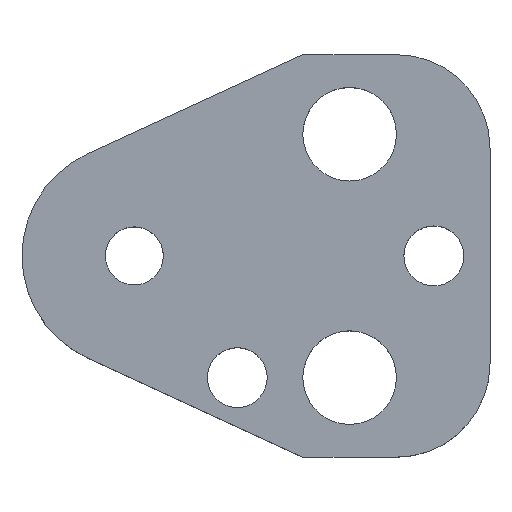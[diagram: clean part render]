
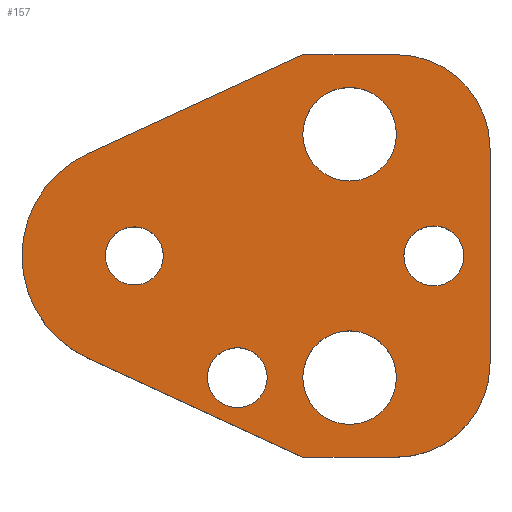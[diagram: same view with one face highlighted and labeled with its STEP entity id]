
A CAD part, top view. The second image highlights one B-rep face of the part: STEP entity #157.
In plain terms, the highlighted planar face has unit normal (0, 0, 1).
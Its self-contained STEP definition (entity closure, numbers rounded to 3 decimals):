
#103=FACE_BOUND('',#207,.T.);
#104=FACE_BOUND('',#208,.T.);
#105=FACE_BOUND('',#209,.T.);
#106=FACE_BOUND('',#210,.T.);
#107=FACE_BOUND('',#211,.T.);
#108=FACE_BOUND('',#212,.T.);
#122=CIRCLE('',#480,10.);
#124=CIRCLE('',#484,10.);
#127=CIRCLE('',#490,12.);
#138=CIRCLE('',#503,3.2);
#139=CIRCLE('',#504,3.2);
#140=CIRCLE('',#505,5.);
#141=CIRCLE('',#506,5.);
#142=CIRCLE('',#507,5.);
#143=CIRCLE('',#508,5.);
#144=CIRCLE('',#509,3.2);
#145=CIRCLE('',#510,3.2);
#146=CIRCLE('',#511,3.1);
#147=CIRCLE('',#512,3.1);
#157=ADVANCED_FACE('',(#103,#104,#105,#106,#107,#108),#174,.T.);
#174=PLANE('',#513);
#207=EDGE_LOOP('',(#273,#274,#275,#276,#277,#278,#279,#280));
#208=EDGE_LOOP('',(#281,#282));
#209=EDGE_LOOP('',(#283,#284));
#210=EDGE_LOOP('',(#285,#286));
#211=EDGE_LOOP('',(#287,#288));
#212=EDGE_LOOP('',(#289,#290));
#273=ORIENTED_EDGE('',*,*,#368,.T.);
#274=ORIENTED_EDGE('',*,*,#372,.T.);
#275=ORIENTED_EDGE('',*,*,#375,.T.);
#276=ORIENTED_EDGE('',*,*,#378,.T.);
#277=ORIENTED_EDGE('',*,*,#381,.T.);
#278=ORIENTED_EDGE('',*,*,#384,.T.);
#279=ORIENTED_EDGE('',*,*,#387,.T.);
#280=ORIENTED_EDGE('',*,*,#390,.T.);
#281=ORIENTED_EDGE('',*,*,#401,.T.);
#282=ORIENTED_EDGE('',*,*,#402,.T.);
#283=ORIENTED_EDGE('',*,*,#403,.T.);
#284=ORIENTED_EDGE('',*,*,#404,.T.);
#285=ORIENTED_EDGE('',*,*,#405,.T.);
#286=ORIENTED_EDGE('',*,*,#406,.T.);
#287=ORIENTED_EDGE('',*,*,#407,.T.);
#288=ORIENTED_EDGE('',*,*,#408,.T.);
#289=ORIENTED_EDGE('',*,*,#409,.T.);
#290=ORIENTED_EDGE('',*,*,#410,.T.);
#332=VERTEX_POINT('',#649);
#333=VERTEX_POINT('',#651);
#336=VERTEX_POINT('',#658);
#338=VERTEX_POINT('',#664);
#340=VERTEX_POINT('',#670);
#342=VERTEX_POINT('',#676);
#344=VERTEX_POINT('',#682);
#346=VERTEX_POINT('',#688);
#357=VERTEX_POINT('',#717);
#358=VERTEX_POINT('',#718);
#359=VERTEX_POINT('',#721);
#360=VERTEX_POINT('',#722);
#361=VERTEX_POINT('',#725);
#362=VERTEX_POINT('',#726);
#363=VERTEX_POINT('',#729);
#364=VERTEX_POINT('',#730);
#365=VERTEX_POINT('',#733);
#366=VERTEX_POINT('',#734);
#368=EDGE_CURVE('',#333,#332,#422,.T.);
#372=EDGE_CURVE('',#332,#336,#426,.T.);
#375=EDGE_CURVE('',#336,#338,#122,.T.);
#378=EDGE_CURVE('',#338,#340,#430,.T.);
#381=EDGE_CURVE('',#340,#342,#124,.T.);
#384=EDGE_CURVE('',#342,#344,#434,.T.);
#387=EDGE_CURVE('',#344,#346,#437,.T.);
#390=EDGE_CURVE('',#346,#333,#127,.T.);
#401=EDGE_CURVE('',#357,#358,#138,.T.);
#402=EDGE_CURVE('',#358,#357,#139,.T.);
#403=EDGE_CURVE('',#359,#360,#140,.T.);
#404=EDGE_CURVE('',#360,#359,#141,.T.);
#405=EDGE_CURVE('',#361,#362,#142,.T.);
#406=EDGE_CURVE('',#362,#361,#143,.T.);
#407=EDGE_CURVE('',#363,#364,#144,.T.);
#408=EDGE_CURVE('',#364,#363,#145,.T.);
#409=EDGE_CURVE('',#365,#366,#146,.T.);
#410=EDGE_CURVE('',#366,#365,#147,.T.);
#422=LINE('',#650,#450);
#426=LINE('',#659,#454);
#430=LINE('',#671,#458);
#434=LINE('',#683,#462);
#437=LINE('',#689,#465);
#450=VECTOR('',#527,1.);
#454=VECTOR('',#533,1.);
#458=VECTOR('',#545,1.);
#462=VECTOR('',#557,1.);
#465=VECTOR('',#562,1.);
#480=AXIS2_PLACEMENT_3D('',#665,#538,#539);
#484=AXIS2_PLACEMENT_3D('',#677,#550,#551);
#490=AXIS2_PLACEMENT_3D('',#693,#568,#569);
#503=AXIS2_PLACEMENT_3D('',#716,#594,#595);
#504=AXIS2_PLACEMENT_3D('',#719,#596,#597);
#505=AXIS2_PLACEMENT_3D('',#720,#598,#599);
#506=AXIS2_PLACEMENT_3D('',#723,#600,#601);
#507=AXIS2_PLACEMENT_3D('',#724,#602,#603);
#508=AXIS2_PLACEMENT_3D('',#727,#604,#605);
#509=AXIS2_PLACEMENT_3D('',#728,#606,#607);
#510=AXIS2_PLACEMENT_3D('',#731,#608,#609);
#511=AXIS2_PLACEMENT_3D('',#732,#610,#611);
#512=AXIS2_PLACEMENT_3D('',#735,#612,#613);
#513=AXIS2_PLACEMENT_3D('',#736,#614,#615);
#527=DIRECTION('',(0.908,-0.418,0.));
#533=DIRECTION('',(1.,0.,0.));
#538=DIRECTION('',(0.,0.,1.));
#539=DIRECTION('',(-0.707,0.707,0.));
#545=DIRECTION('',(0.,1.,0.));
#550=DIRECTION('',(0.,0.,1.));
#551=DIRECTION('',(-0.707,-0.707,0.));
#557=DIRECTION('',(-1.,0.,0.));
#562=DIRECTION('',(-0.908,-0.418,0.));
#568=DIRECTION('',(0.,0.,1.));
#569=DIRECTION('',(1.,0.,0.));
#594=DIRECTION('',(0.,0.,-1.));
#595=DIRECTION('',(-1.,0.,0.));
#596=DIRECTION('',(0.,0.,-1.));
#597=DIRECTION('',(1.,0.,0.));
#598=DIRECTION('',(0.,0.,-1.));
#599=DIRECTION('',(-1.,0.,0.));
#600=DIRECTION('',(0.,0.,-1.));
#601=DIRECTION('',(1.,0.,0.));
#602=DIRECTION('',(0.,0.,-1.));
#603=DIRECTION('',(-1.,0.,0.));
#604=DIRECTION('',(0.,0.,-1.));
#605=DIRECTION('',(1.,0.,0.));
#606=DIRECTION('',(0.,0.,-1.));
#607=DIRECTION('',(-1.,0.,0.));
#608=DIRECTION('',(0.,0.,-1.));
#609=DIRECTION('',(1.,0.,0.));
#610=DIRECTION('',(0.,0.,-1.));
#611=DIRECTION('',(-1.,0.,0.));
#612=DIRECTION('',(0.,0.,-1.));
#613=DIRECTION('',(1.,0.,0.));
#614=DIRECTION('',(0.,0.,1.));
#615=DIRECTION('',(0.908,-0.418,0.));
#649=CARTESIAN_POINT('',(18.,-21.5,10.));
#650=CARTESIAN_POINT('',(18.,-21.5,10.));
#651=CARTESIAN_POINT('',(-5.019,-10.9,10.));
#658=CARTESIAN_POINT('',(28.,-21.5,10.));
#659=CARTESIAN_POINT('',(18.,-21.5,10.));
#664=CARTESIAN_POINT('',(38.,-11.5,10.));
#665=CARTESIAN_POINT('',(28.,-11.5,10.));
#670=CARTESIAN_POINT('',(38.,11.5,10.));
#671=CARTESIAN_POINT('',(38.,11.5,10.));
#676=CARTESIAN_POINT('',(28.,21.5,10.));
#677=CARTESIAN_POINT('',(28.,11.5,10.));
#682=CARTESIAN_POINT('',(18.,21.5,10.));
#683=CARTESIAN_POINT('',(18.,21.5,10.));
#688=CARTESIAN_POINT('',(-5.019,10.9,10.));
#689=CARTESIAN_POINT('',(18.,21.5,10.));
#693=CARTESIAN_POINT('',(0.,0.,10.));
#716=CARTESIAN_POINT('',(32.,0.,10.));
#717=CARTESIAN_POINT('',(32.,3.2,10.));
#718=CARTESIAN_POINT('',(32.,-3.2,10.));
#719=CARTESIAN_POINT('',(32.,0.,10.));
#720=CARTESIAN_POINT('',(23.,13.,10.));
#721=CARTESIAN_POINT('',(23.,18.,10.));
#722=CARTESIAN_POINT('',(23.,8.,10.));
#723=CARTESIAN_POINT('',(23.,13.,10.));
#724=CARTESIAN_POINT('',(23.,-13.,10.));
#725=CARTESIAN_POINT('',(23.,-8.,10.));
#726=CARTESIAN_POINT('',(23.,-18.,10.));
#727=CARTESIAN_POINT('',(23.,-13.,10.));
#728=CARTESIAN_POINT('',(11.,-13.,10.));
#729=CARTESIAN_POINT('',(11.,-9.8,10.));
#730=CARTESIAN_POINT('',(11.,-16.2,10.));
#731=CARTESIAN_POINT('',(11.,-13.,10.));
#732=CARTESIAN_POINT('',(0.,0.,10.));
#733=CARTESIAN_POINT('',(0.,3.1,10.));
#734=CARTESIAN_POINT('',(0.,-3.1,10.));
#735=CARTESIAN_POINT('',(0.,0.,10.));
#736=CARTESIAN_POINT('',(-5.019,-10.9,10.));
